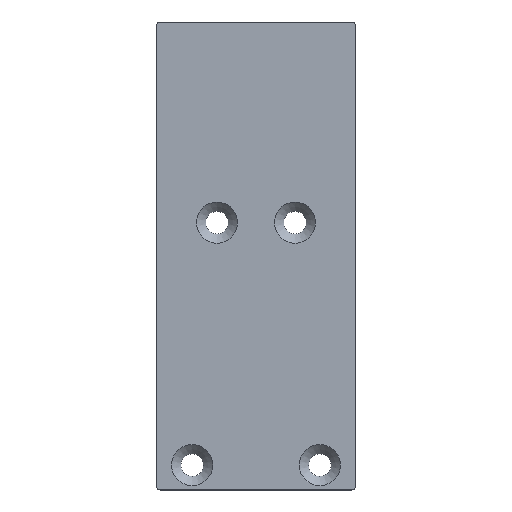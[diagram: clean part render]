
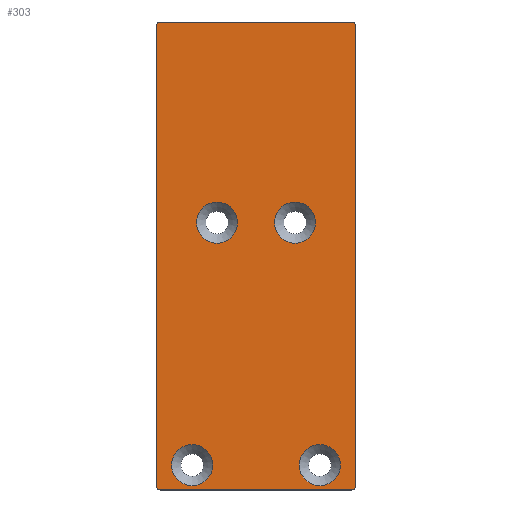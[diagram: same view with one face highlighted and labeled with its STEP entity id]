
A CAD part, top view. The second image highlights one B-rep face of the part: STEP entity #303.
In plain terms, the highlighted planar face has unit normal (0, 0, 1).
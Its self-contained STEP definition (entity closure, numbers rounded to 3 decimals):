
#29=PLANE('',#346);
#32=LINE('',#468,#48);
#36=LINE('',#480,#52);
#40=LINE('',#492,#56);
#44=LINE('',#504,#60);
#48=VECTOR('',#375,1000.);
#52=VECTOR('',#387,1000.);
#56=VECTOR('',#399,1000.);
#60=VECTOR('',#411,1000.);
#106=ORIENTED_EDGE('',*,*,#162,.T.);
#107=ORIENTED_EDGE('',*,*,#163,.T.);
#108=ORIENTED_EDGE('',*,*,#164,.T.);
#109=ORIENTED_EDGE('',*,*,#165,.T.);
#110=ORIENTED_EDGE('',*,*,#134,.T.);
#111=ORIENTED_EDGE('',*,*,#138,.T.);
#112=ORIENTED_EDGE('',*,*,#141,.T.);
#113=ORIENTED_EDGE('',*,*,#144,.T.);
#114=ORIENTED_EDGE('',*,*,#147,.T.);
#115=ORIENTED_EDGE('',*,*,#150,.T.);
#116=ORIENTED_EDGE('',*,*,#153,.T.);
#117=ORIENTED_EDGE('',*,*,#156,.T.);
#134=EDGE_CURVE('',#170,#171,#198,.T.);
#138=EDGE_CURVE('',#171,#174,#32,.T.);
#141=EDGE_CURVE('',#174,#176,#200,.T.);
#144=EDGE_CURVE('',#176,#178,#36,.T.);
#147=EDGE_CURVE('',#178,#180,#202,.T.);
#150=EDGE_CURVE('',#180,#182,#40,.T.);
#153=EDGE_CURVE('',#182,#184,#204,.T.);
#156=EDGE_CURVE('',#184,#170,#44,.T.);
#162=EDGE_CURVE('',#190,#190,#210,.T.);
#163=EDGE_CURVE('',#191,#191,#211,.T.);
#164=EDGE_CURVE('',#192,#192,#212,.T.);
#165=EDGE_CURVE('',#193,#193,#213,.T.);
#170=VERTEX_POINT('',#460);
#171=VERTEX_POINT('',#461);
#174=VERTEX_POINT('',#469);
#176=VERTEX_POINT('',#475);
#178=VERTEX_POINT('',#481);
#180=VERTEX_POINT('',#487);
#182=VERTEX_POINT('',#493);
#184=VERTEX_POINT('',#499);
#190=VERTEX_POINT('',#517);
#191=VERTEX_POINT('',#519);
#192=VERTEX_POINT('',#521);
#193=VERTEX_POINT('',#523);
#198=CIRCLE('',#326,0.5);
#200=CIRCLE('',#330,0.5);
#202=CIRCLE('',#334,0.5);
#204=CIRCLE('',#338,0.5);
#210=CIRCLE('',#347,2.9);
#211=CIRCLE('',#348,2.9);
#212=CIRCLE('',#349,2.9);
#213=CIRCLE('',#350,2.9);
#231=EDGE_LOOP('',(#106));
#232=EDGE_LOOP('',(#107));
#233=EDGE_LOOP('',(#108));
#234=EDGE_LOOP('',(#109));
#235=EDGE_LOOP('',(#110,#111,#112,#113,#114,#115,#116,#117));
#265=FACE_BOUND('',#231,.T.);
#266=FACE_BOUND('',#232,.T.);
#267=FACE_BOUND('',#233,.T.);
#268=FACE_BOUND('',#234,.T.);
#269=FACE_BOUND('',#235,.T.);
#303=ADVANCED_FACE('',(#265,#266,#267,#268,#269),#29,.T.);
#326=AXIS2_PLACEMENT_3D('',#459,#367,#368);
#330=AXIS2_PLACEMENT_3D('',#474,#380,#381);
#334=AXIS2_PLACEMENT_3D('',#486,#392,#393);
#338=AXIS2_PLACEMENT_3D('',#498,#404,#405);
#346=AXIS2_PLACEMENT_3D('',#515,#423,#424);
#347=AXIS2_PLACEMENT_3D('',#516,#425,#426);
#348=AXIS2_PLACEMENT_3D('',#518,#427,#428);
#349=AXIS2_PLACEMENT_3D('',#520,#429,#430);
#350=AXIS2_PLACEMENT_3D('',#522,#431,#432);
#367=DIRECTION('',(0.,0.,1.));
#368=DIRECTION('',(1.,0.,0.));
#375=DIRECTION('',(0.,-1.,0.));
#380=DIRECTION('',(0.,0.,1.));
#381=DIRECTION('',(1.,0.,0.));
#387=DIRECTION('',(1.,0.,0.));
#392=DIRECTION('',(0.,0.,1.));
#393=DIRECTION('',(-1.,0.,0.));
#399=DIRECTION('',(0.,1.,0.));
#404=DIRECTION('',(0.,0.,1.));
#405=DIRECTION('',(-1.,0.,0.));
#411=DIRECTION('',(-1.,0.,0.));
#423=DIRECTION('',(0.,0.,1.));
#424=DIRECTION('',(1.,0.,0.));
#425=DIRECTION('',(0.,0.,-1.));
#426=DIRECTION('',(0.,1.,0.));
#427=DIRECTION('',(0.,0.,-1.));
#428=DIRECTION('',(0.,1.,0.));
#429=DIRECTION('',(0.,0.,-1.));
#430=DIRECTION('',(0.,1.,0.));
#431=DIRECTION('',(0.,0.,-1.));
#432=DIRECTION('',(0.,1.,0.));
#459=CARTESIAN_POINT('',(-13.5,33.5,0.));
#460=CARTESIAN_POINT('',(-13.5,34.,0.));
#461=CARTESIAN_POINT('',(-14.,33.5,0.));
#468=CARTESIAN_POINT('',(-14.,33.5,0.));
#469=CARTESIAN_POINT('',(-14.,-31.5,0.));
#474=CARTESIAN_POINT('',(-13.5,-31.5,0.));
#475=CARTESIAN_POINT('',(-13.5,-32.,0.));
#480=CARTESIAN_POINT('',(-13.5,-32.,0.));
#481=CARTESIAN_POINT('',(13.5,-32.,0.));
#486=CARTESIAN_POINT('',(13.5,-31.5,0.));
#487=CARTESIAN_POINT('',(14.,-31.5,0.));
#492=CARTESIAN_POINT('',(14.,-31.5,0.));
#493=CARTESIAN_POINT('',(14.,33.5,0.));
#498=CARTESIAN_POINT('',(13.5,33.5,0.));
#499=CARTESIAN_POINT('',(13.5,34.,0.));
#504=CARTESIAN_POINT('',(-13.5,34.,0.));
#515=CARTESIAN_POINT('',(-13.5,33.5,0.));
#516=CARTESIAN_POINT('',(5.5,5.7,0.));
#517=CARTESIAN_POINT('',(5.5,8.6,0.));
#518=CARTESIAN_POINT('',(-5.5,5.7,0.));
#519=CARTESIAN_POINT('',(-5.5,8.6,0.));
#520=CARTESIAN_POINT('',(9.,-28.5,0.));
#521=CARTESIAN_POINT('',(9.,-25.6,0.));
#522=CARTESIAN_POINT('',(-9.,-28.5,0.));
#523=CARTESIAN_POINT('',(-9.,-25.6,0.));
